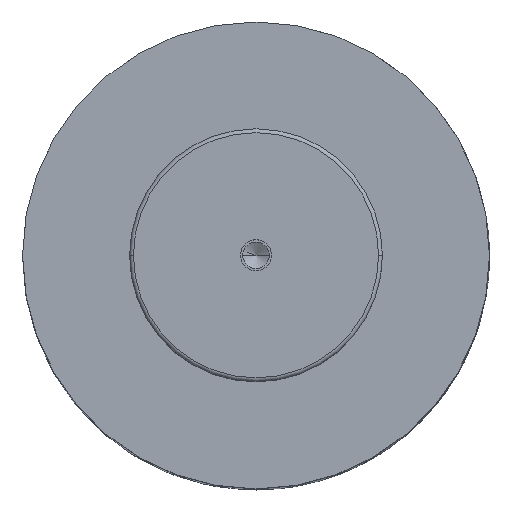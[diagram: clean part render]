
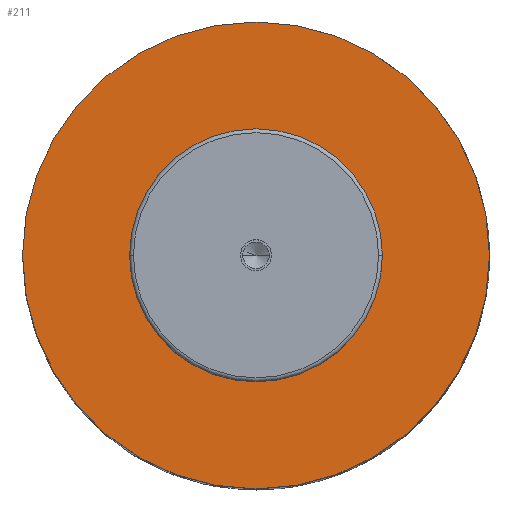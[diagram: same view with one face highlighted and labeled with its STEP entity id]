
A CAD part, top view. The second image highlights one B-rep face of the part: STEP entity #211.
In plain terms, the highlighted planar face has unit normal (0, 0, 1).
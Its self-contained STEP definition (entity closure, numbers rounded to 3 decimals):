
#109=PLANE('',#1266);
#138=FACE_BOUND('',#359,.T.);
#139=FACE_BOUND('',#360,.T.);
#211=ADVANCED_FACE('',(#138,#139),#109,.T.);
#359=EDGE_LOOP('',(#571,#572));
#360=EDGE_LOOP('',(#573,#574));
#451=CIRCLE('',#1260,32.5);
#452=CIRCLE('',#1262,32.5);
#453=CIRCLE('',#1264,60.);
#454=CIRCLE('',#1265,60.);
#571=ORIENTED_EDGE('',*,*,#970,.F.);
#572=ORIENTED_EDGE('',*,*,#971,.F.);
#573=ORIENTED_EDGE('',*,*,#969,.T.);
#574=ORIENTED_EDGE('',*,*,#967,.T.);
#856=VERTEX_POINT('',#1837);
#857=VERTEX_POINT('',#1839);
#858=VERTEX_POINT('',#1845);
#859=VERTEX_POINT('',#1846);
#967=EDGE_CURVE('',#857,#856,#451,.T.);
#969=EDGE_CURVE('',#856,#857,#452,.T.);
#970=EDGE_CURVE('',#858,#859,#453,.T.);
#971=EDGE_CURVE('',#859,#858,#454,.T.);
#1260=AXIS2_PLACEMENT_3D('',#1838,#1456,#1457);
#1262=AXIS2_PLACEMENT_3D('',#1842,#1461,#1462);
#1264=AXIS2_PLACEMENT_3D('',#1844,#1465,#1466);
#1265=AXIS2_PLACEMENT_3D('',#1847,#1467,#1468);
#1266=AXIS2_PLACEMENT_3D('',#1848,#1469,#1470);
#1456=DIRECTION('',(0.,0.,-1.));
#1457=DIRECTION('',(0.,1.,0.));
#1461=DIRECTION('',(0.,0.,-1.));
#1462=DIRECTION('',(0.,-1.,0.));
#1465=DIRECTION('',(0.,0.,-1.));
#1466=DIRECTION('',(0.,1.,0.));
#1467=DIRECTION('',(0.,0.,-1.));
#1468=DIRECTION('',(0.,-1.,0.));
#1469=DIRECTION('',(0.,0.,1.));
#1470=DIRECTION('',(0.,-1.,0.));
#1837=CARTESIAN_POINT('',(-32.5,0.,162.));
#1838=CARTESIAN_POINT('',(0.,0.,162.));
#1839=CARTESIAN_POINT('',(32.5,0.,162.));
#1842=CARTESIAN_POINT('',(0.,0.,162.));
#1844=CARTESIAN_POINT('',(0.,0.,162.));
#1845=CARTESIAN_POINT('',(60.,0.,162.));
#1846=CARTESIAN_POINT('',(-60.,0.,162.));
#1847=CARTESIAN_POINT('',(0.,0.,162.));
#1848=CARTESIAN_POINT('',(0.,0.,162.));
